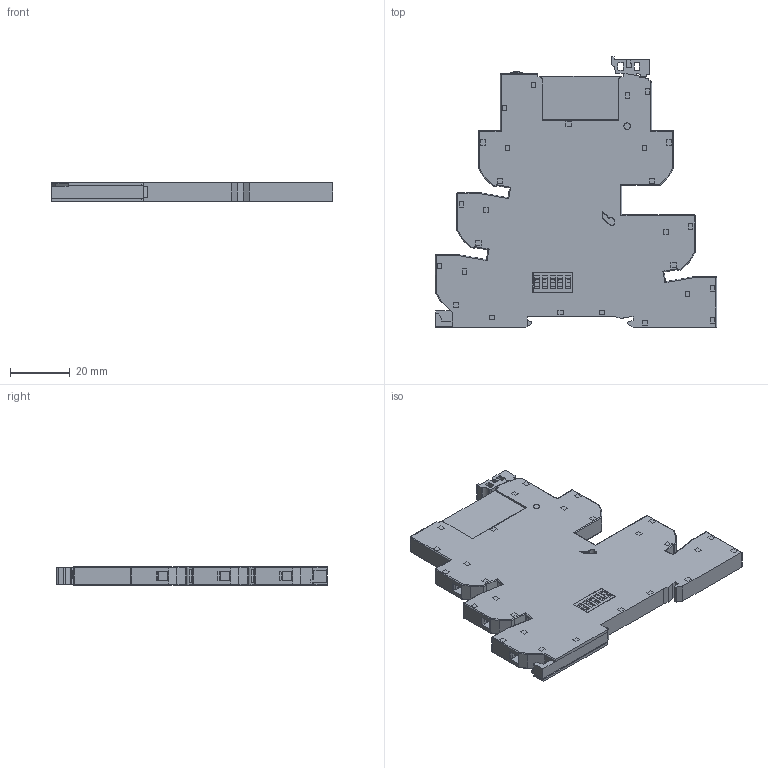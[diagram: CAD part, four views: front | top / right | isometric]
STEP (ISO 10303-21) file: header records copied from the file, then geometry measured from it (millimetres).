
FILE_DESCRIPTION(('STEP AP214'),'2;1');
FILE_NAME('3980=3481+9368.stp','2010-10-02T09:22:03',(''),(''),'2007.1.106','THINKDESIGN','');
FILE_SCHEMA(('AUTOMOTIVE_DESIGN'));
Products named in the file (1): None
Bounding box: 94.25 x 90.7 x 6.2 mm (x, y, z)
Surface area: 18343.5 mm2 (no closed solid volume)
Topology: 0 solids, 0 shells, 1158 faces, 6770 edges, 6755 vertices
Faces by surface type: plane 956, cylinder 177, bspline 25
Full cylindrical faces by diameter (mm): 1.5 x6, 2.2 x2, 2.798 x6, 3.9 x6, 4.299 x6
Entity records: 66444 total; most frequent: CARTESIAN_POINT 16663, DIRECTION 8859, COMPOSITE_CURVE_SEGMENT 6757, TRIMMED_CURVE 6283, VECTOR 5973, LINE 5973, AXIS2_PLACEMENT_3D 1443, OUTER_BOUNDARY_CURVE 1158
